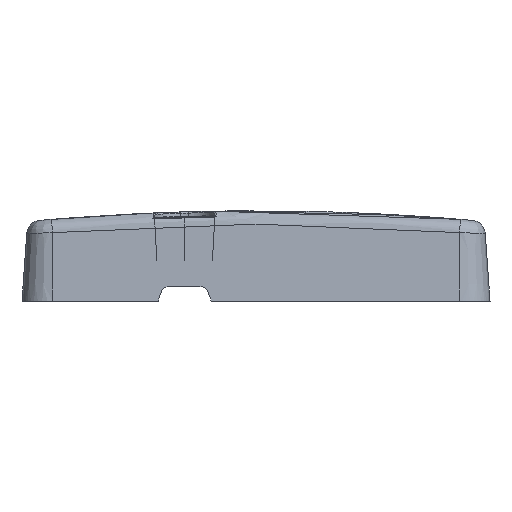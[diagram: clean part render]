
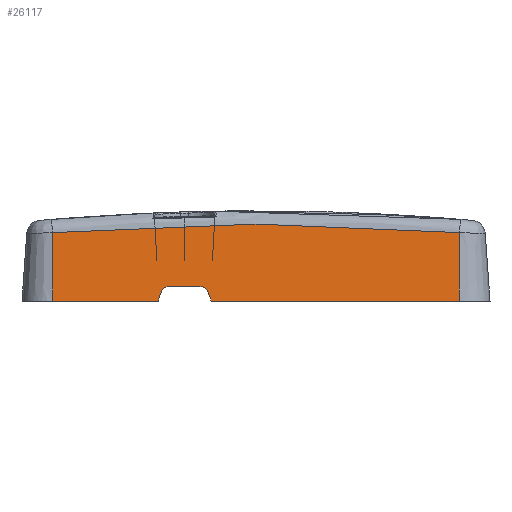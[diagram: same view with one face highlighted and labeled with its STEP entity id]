
A CAD part, left-side view. The second image highlights one B-rep face of the part: STEP entity #26117.
In plain terms, the highlighted planar face has unit normal (-0.998, 0, 0.07).
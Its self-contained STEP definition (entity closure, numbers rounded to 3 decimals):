
#3973=CARTESIAN_POINT('Vertex',(-145.29,13.728,-1.27)) ;
#3976=CARTESIAN_POINT('Line Origine',(-145.29,21.119,-1.27)) ;
#3980=CARTESIAN_POINT('Vertex',(-145.29,28.511,-1.27)) ;
#4191=CARTESIAN_POINT('Vertex',(-145.29,-28.511,-1.27)) ;
#4194=CARTESIAN_POINT('Line Origine',(-145.29,-11.119,-1.27)) ;
#4198=CARTESIAN_POINT('Vertex',(-145.29,6.272,-1.27)) ;
#26005=CARTESIAN_POINT('Line Origine',(-144.955,28.511,3.526)) ;
#26009=CARTESIAN_POINT('Vertex',(-144.619,28.511,8.322)) ;
#26034=CARTESIAN_POINT('Axis2P3D Location',(-145.311,0.,-1.57)) ;
#26039=CARTESIAN_POINT('Line Origine',(-145.239,13.46,-0.533)) ;
#26043=CARTESIAN_POINT('Vertex',(-145.187,13.192,0.204)) ;
#26047=CARTESIAN_POINT('Control Point',(-145.15,12.44,0.73)) ;
#26048=CARTESIAN_POINT('Control Point',(-145.15,12.518,0.73)) ;
#26049=CARTESIAN_POINT('Control Point',(-145.151,12.596,0.72)) ;
#26050=CARTESIAN_POINT('Control Point',(-145.152,12.673,0.701)) ;
#26051=CARTESIAN_POINT('Control Point',(-145.156,12.82,0.645)) ;
#26052=CARTESIAN_POINT('Control Point',(-145.162,12.949,0.554)) ;
#26053=CARTESIAN_POINT('Control Point',(-145.166,13.008,0.502)) ;
#26054=CARTESIAN_POINT('Control Point',(-145.172,13.085,0.412)) ;
#26055=CARTESIAN_POINT('Control Point',(-145.179,13.145,0.311)) ;
#26056=CARTESIAN_POINT('Control Point',(-145.182,13.163,0.276)) ;
#26057=CARTESIAN_POINT('Control Point',(-145.184,13.178,0.24)) ;
#26058=CARTESIAN_POINT('Control Point',(-145.187,13.192,0.204)) ;
#26059=CARTESIAN_POINT('Vertex',(-145.15,12.44,0.73)) ;
#26062=CARTESIAN_POINT('Line Origine',(-145.15,10.,0.73)) ;
#26066=CARTESIAN_POINT('Vertex',(-145.15,7.56,0.73)) ;
#26070=CARTESIAN_POINT('Control Point',(-145.15,7.56,0.73)) ;
#26071=CARTESIAN_POINT('Control Point',(-145.15,7.482,0.73)) ;
#26072=CARTESIAN_POINT('Control Point',(-145.151,7.404,0.72)) ;
#26073=CARTESIAN_POINT('Control Point',(-145.152,7.327,0.701)) ;
#26074=CARTESIAN_POINT('Control Point',(-145.156,7.18,0.645)) ;
#26075=CARTESIAN_POINT('Control Point',(-145.162,7.051,0.554)) ;
#26076=CARTESIAN_POINT('Control Point',(-145.166,6.992,0.502)) ;
#26077=CARTESIAN_POINT('Control Point',(-145.172,6.915,0.412)) ;
#26078=CARTESIAN_POINT('Control Point',(-145.179,6.855,0.311)) ;
#26079=CARTESIAN_POINT('Control Point',(-145.182,6.837,0.276)) ;
#26080=CARTESIAN_POINT('Control Point',(-145.184,6.822,0.24)) ;
#26081=CARTESIAN_POINT('Control Point',(-145.187,6.808,0.204)) ;
#26082=CARTESIAN_POINT('Vertex',(-145.187,6.808,0.204)) ;
#26085=CARTESIAN_POINT('Line Origine',(-145.239,6.54,-0.533)) ;
#26090=CARTESIAN_POINT('Line Origine',(-144.955,-28.511,3.526)) ;
#26094=CARTESIAN_POINT('Vertex',(-144.619,-28.511,8.322)) ;
#26098=CARTESIAN_POINT('Control Point',(-144.619,-28.511,8.322)) ;
#26099=CARTESIAN_POINT('Control Point',(-144.552,-17.134,9.279)) ;
#26100=CARTESIAN_POINT('Control Point',(-144.519,-5.716,9.757)) ;
#26101=CARTESIAN_POINT('Control Point',(-144.519,5.716,9.757)) ;
#26102=CARTESIAN_POINT('Control Point',(-144.552,17.133,9.279)) ;
#26103=CARTESIAN_POINT('Control Point',(-144.619,28.511,8.322)) ;
#3977=DIRECTION('Vector Direction',(0.,-1.,0.)) ;
#4195=DIRECTION('Vector Direction',(0.,-1.,0.)) ;
#26006=DIRECTION('Vector Direction',(-0.07,0.,-0.998)) ;
#26035=DIRECTION('Axis2P3D Direction',(0.998,0.,-0.07)) ;
#26036=DIRECTION('Axis2P3D XDirection',(0.,-1.,0.)) ;
#26040=DIRECTION('Vector Direction',(0.066,-0.341,0.938)) ;
#26063=DIRECTION('Vector Direction',(0.,-1.,0.)) ;
#26086=DIRECTION('Vector Direction',(0.066,0.341,0.938)) ;
#26091=DIRECTION('Vector Direction',(-0.07,0.,-0.998)) ;
#26037=AXIS2_PLACEMENT_3D('Plane Axis2P3D',#26034,#26035,#26036) ;
#26106=ORIENTED_EDGE('',*,*,#26045,.T.) ;
#26107=ORIENTED_EDGE('',*,*,#26061,.F.) ;
#26108=ORIENTED_EDGE('',*,*,#26068,.F.) ;
#26109=ORIENTED_EDGE('',*,*,#26084,.T.) ;
#26110=ORIENTED_EDGE('',*,*,#26089,.F.) ;
#26111=ORIENTED_EDGE('',*,*,#4200,.F.) ;
#26112=ORIENTED_EDGE('',*,*,#26096,.F.) ;
#26113=ORIENTED_EDGE('',*,*,#26104,.T.) ;
#26114=ORIENTED_EDGE('',*,*,#26011,.T.) ;
#26115=ORIENTED_EDGE('',*,*,#3982,.F.) ;
#3978=VECTOR('Line Direction',#3977,1.) ;
#4196=VECTOR('Line Direction',#4195,1.) ;
#26007=VECTOR('Line Direction',#26006,1.) ;
#26041=VECTOR('Line Direction',#26040,1.) ;
#26064=VECTOR('Line Direction',#26063,1.) ;
#26087=VECTOR('Line Direction',#26086,1.) ;
#26092=VECTOR('Line Direction',#26091,1.) ;
#26117=ADVANCED_FACE('Brep With Voids',(#26116),#26038,.F.) ;
#26046=B_SPLINE_CURVE_WITH_KNOTS('',5,(#26047,#26048,#26049,#26050,#26051,#26052,#26053,#26054,#26055,#26056,#26057,#26058),.UNSPECIFIED.,.F.,.U.,(6,3,3,6),(0.,0.565,1.131,1.413),.UNSPECIFIED.) ;
#26069=B_SPLINE_CURVE_WITH_KNOTS('',5,(#26070,#26071,#26072,#26073,#26074,#26075,#26076,#26077,#26078,#26079,#26080,#26081),.UNSPECIFIED.,.F.,.U.,(6,3,3,6),(0.,0.565,1.131,1.413),.UNSPECIFIED.) ;
#26097=B_SPLINE_CURVE_WITH_KNOTS('',5,(#26098,#26099,#26100,#26101,#26102,#26103),.UNSPECIFIED.,.F.,.U.,(6,6),(0.,80.784),.UNSPECIFIED.) ;
#3982=EDGE_CURVE('',#3974,#3981,#3979,.F.) ;
#4200=EDGE_CURVE('',#4192,#4199,#4197,.F.) ;
#26011=EDGE_CURVE('',#26010,#3981,#26008,.T.) ;
#26045=EDGE_CURVE('',#3974,#26044,#26042,.T.) ;
#26061=EDGE_CURVE('',#26060,#26044,#26046,.T.) ;
#26068=EDGE_CURVE('',#26067,#26060,#26065,.F.) ;
#26084=EDGE_CURVE('',#26067,#26083,#26069,.T.) ;
#26089=EDGE_CURVE('',#4199,#26083,#26088,.T.) ;
#26096=EDGE_CURVE('',#26095,#4192,#26093,.T.) ;
#26104=EDGE_CURVE('',#26095,#26010,#26097,.T.) ;
#26105=EDGE_LOOP('',(#26106,#26107,#26108,#26109,#26110,#26111,#26112,#26113,#26114,#26115)) ;
#26116=FACE_OUTER_BOUND('',#26105,.T.) ;
#3979=LINE('Line',#3976,#3978) ;
#4197=LINE('Line',#4194,#4196) ;
#26008=LINE('Line',#26005,#26007) ;
#26042=LINE('Line',#26039,#26041) ;
#26065=LINE('Line',#26062,#26064) ;
#26088=LINE('Line',#26085,#26087) ;
#26093=LINE('Line',#26090,#26092) ;
#26038=PLANE('',#26037) ;
#3974=VERTEX_POINT('',#3973) ;
#3981=VERTEX_POINT('',#3980) ;
#4192=VERTEX_POINT('',#4191) ;
#4199=VERTEX_POINT('',#4198) ;
#26010=VERTEX_POINT('',#26009) ;
#26044=VERTEX_POINT('',#26043) ;
#26060=VERTEX_POINT('',#26059) ;
#26067=VERTEX_POINT('',#26066) ;
#26083=VERTEX_POINT('',#26082) ;
#26095=VERTEX_POINT('',#26094) ;
